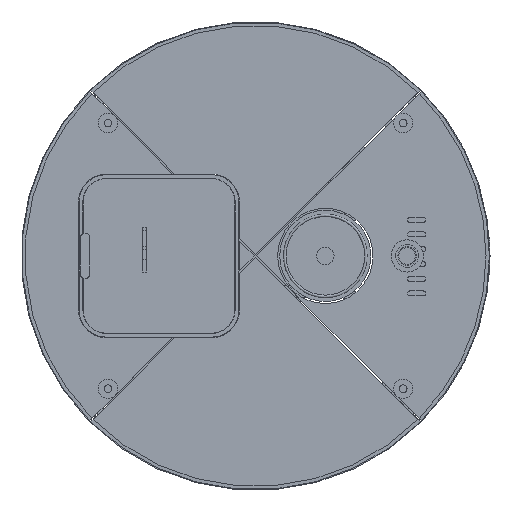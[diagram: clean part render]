
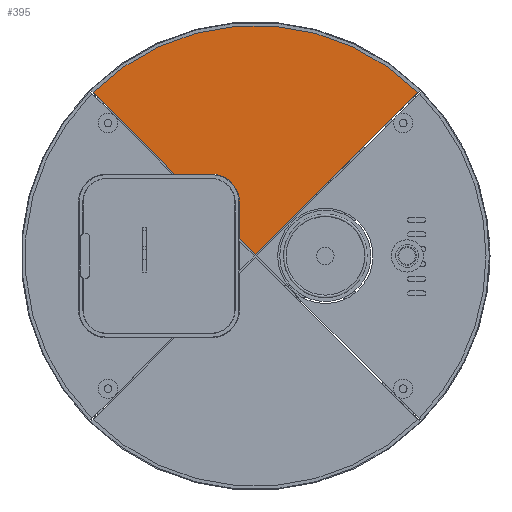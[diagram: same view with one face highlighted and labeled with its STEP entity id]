
A CAD part, top view. The second image highlights one B-rep face of the part: STEP entity #395.
In plain terms, the highlighted planar face has unit normal (0, 0, 1).
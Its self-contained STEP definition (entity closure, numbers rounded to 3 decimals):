
#357 = EDGE_CURVE('',#358,#360,#362,.T.);
#358 = VERTEX_POINT('',#359);
#359 = CARTESIAN_POINT('',(121.003,121.957,77.));
#360 = VERTEX_POINT('',#361);
#361 = CARTESIAN_POINT('',(-121.003,121.957,77.));
#362 = CIRCLE('',#363,171.8);
#363 = AXIS2_PLACEMENT_3D('',#364,#365,#366);
#364 = CARTESIAN_POINT('',(0.,0.,77.));
#365 = DIRECTION('',(0.,0.,1.));
#366 = DIRECTION('',(1.,0.,0.));
#395 = ADVANCED_FACE('',(#396),#446,.T.);
#396 = FACE_BOUND('',#397,.T.);
#397 = EDGE_LOOP('',(#398,#406,#407,#415,#423,#432,#440));
#398 = ORIENTED_EDGE('',*,*,#399,.F.);
#399 = EDGE_CURVE('',#358,#400,#402,.T.);
#400 = VERTEX_POINT('',#401);
#401 = CARTESIAN_POINT('',(0.,0.955,77.));
#402 = LINE('',#403,#404);
#403 = CARTESIAN_POINT('',(-0.239,0.716,77.));
#404 = VECTOR('',#405,1.);
#405 = DIRECTION('',(-0.707,-0.707,0.));
#406 = ORIENTED_EDGE('',*,*,#357,.T.);
#407 = ORIENTED_EDGE('',*,*,#408,.F.);
#408 = EDGE_CURVE('',#409,#360,#411,.T.);
#409 = VERTEX_POINT('',#410);
#410 = CARTESIAN_POINT('',(-60.045,61.,77.));
#411 = LINE('',#412,#413);
#412 = CARTESIAN_POINT('',(0.239,0.716,77.));
#413 = VECTOR('',#414,1.);
#414 = DIRECTION('',(-0.707,0.707,0.));
#415 = ORIENTED_EDGE('',*,*,#416,.F.);
#416 = EDGE_CURVE('',#417,#409,#419,.T.);
#417 = VERTEX_POINT('',#418);
#418 = CARTESIAN_POINT('',(-33.,61.,77.));
#419 = LINE('',#420,#421);
#420 = CARTESIAN_POINT('',(-55.5,61.,77.));
#421 = VECTOR('',#422,1.);
#422 = DIRECTION('',(-1.,0.,0.));
#423 = ORIENTED_EDGE('',*,*,#424,.F.);
#424 = EDGE_CURVE('',#425,#417,#427,.T.);
#425 = VERTEX_POINT('',#426);
#426 = CARTESIAN_POINT('',(-12.,40.,77.));
#427 = CIRCLE('',#428,21.);
#428 = AXIS2_PLACEMENT_3D('',#429,#430,#431);
#429 = CARTESIAN_POINT('',(-33.,40.,77.));
#430 = DIRECTION('',(0.,0.,1.));
#431 = DIRECTION('',(1.,0.,0.));
#432 = ORIENTED_EDGE('',*,*,#433,.F.);
#433 = EDGE_CURVE('',#434,#425,#436,.T.);
#434 = VERTEX_POINT('',#435);
#435 = CARTESIAN_POINT('',(-12.,12.955,77.));
#436 = LINE('',#437,#438);
#437 = CARTESIAN_POINT('',(-12.,-20.,77.));
#438 = VECTOR('',#439,1.);
#439 = DIRECTION('',(0.,1.,0.));
#440 = ORIENTED_EDGE('',*,*,#441,.F.);
#441 = EDGE_CURVE('',#400,#434,#442,.T.);
#442 = LINE('',#443,#444);
#443 = CARTESIAN_POINT('',(0.239,0.716,77.));
#444 = VECTOR('',#445,1.);
#445 = DIRECTION('',(-0.707,0.707,0.));
#446 = PLANE('',#447);
#447 = AXIS2_PLACEMENT_3D('',#448,#449,#450);
#448 = CARTESIAN_POINT('',(0.,0.,77.));
#449 = DIRECTION('',(0.,0.,1.));
#450 = DIRECTION('',(1.,0.,0.));
